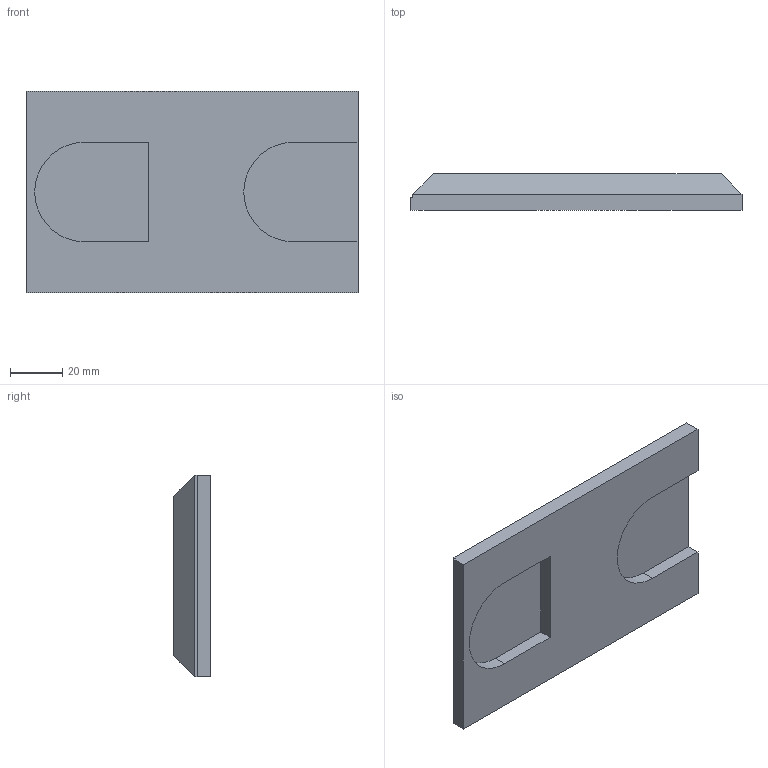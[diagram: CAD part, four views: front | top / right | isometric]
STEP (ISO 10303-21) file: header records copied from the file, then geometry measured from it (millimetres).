
FILE_DESCRIPTION (( 'STEP AP214' ), '1' );
FILE_NAME ('81405.STEP', '2020-10-27T13:20:02', ( '' ), ( '' ), 'SwSTEP 2.0', 'SolidWorks 2019', '' );
FILE_SCHEMA (( 'AUTOMOTIVE_DESIGN' ));
Length unit declared in the file: millimetre
Products named in the file (1): 81405
Bounding box: 127 x 14 x 77 mm (x, y, z)
Volume: 108847.1 mm3; surface area: 24334.2 mm2
Topology: 1 solids, 1 shells, 21 faces, 50 edges, 32 vertices
Faces by surface type: plane 19, cylinder 2
Entity records: 641 total; most frequent: CARTESIAN_POINT 104, ORIENTED_EDGE 100, DIRECTION 98, EDGE_CURVE 50, VECTOR 46, LINE 46, VERTEX_POINT 32, AXIS2_PLACEMENT_3D 26
